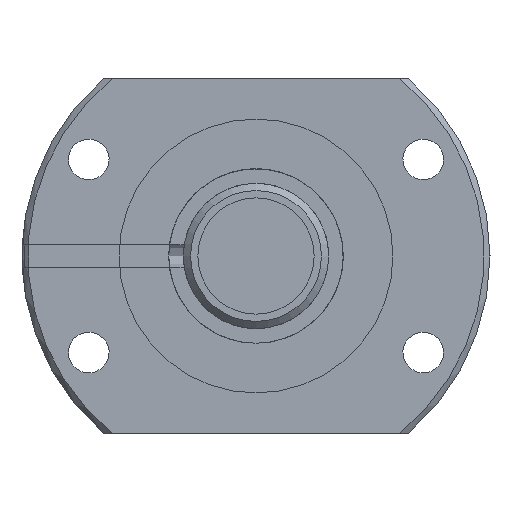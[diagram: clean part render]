
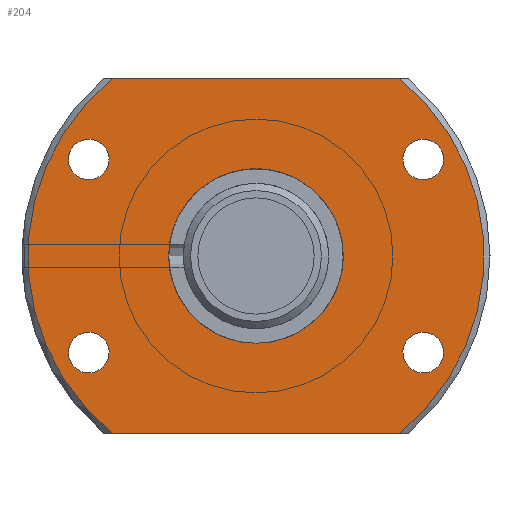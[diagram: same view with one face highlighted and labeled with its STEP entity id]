
A CAD part, left-side view. The second image highlights one B-rep face of the part: STEP entity #204.
In plain terms, the highlighted planar face has unit normal (-1, 0, 0).
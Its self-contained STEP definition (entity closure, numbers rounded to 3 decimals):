
#204 = ADVANCED_FACE( '', ( #311, #312, #313, #314, #315, #316 ), #317, .T. );
#311 = FACE_BOUND( '', #427, .T. );
#312 = FACE_OUTER_BOUND( '', #428, .T. );
#313 = FACE_BOUND( '', #429, .T. );
#314 = FACE_BOUND( '', #430, .T. );
#315 = FACE_BOUND( '', #431, .T. );
#316 = FACE_BOUND( '', #432, .T. );
#317 = PLANE( '', #433 );
#427 = EDGE_LOOP( '', ( #642 ) );
#428 = EDGE_LOOP( '', ( #643, #644, #645, #646 ) );
#429 = EDGE_LOOP( '', ( #647 ) );
#430 = EDGE_LOOP( '', ( #648 ) );
#431 = EDGE_LOOP( '', ( #649 ) );
#432 = EDGE_LOOP( '', ( #650 ) );
#433 = AXIS2_PLACEMENT_3D( '', #651, #652, #653 );
#642 = ORIENTED_EDGE( '', *, *, #718, .T. );
#643 = ORIENTED_EDGE( '', *, *, #738, .F. );
#644 = ORIENTED_EDGE( '', *, *, #703, .F. );
#645 = ORIENTED_EDGE( '', *, *, #709, .F. );
#646 = ORIENTED_EDGE( '', *, *, #739, .F. );
#647 = ORIENTED_EDGE( '', *, *, #695, .T. );
#648 = ORIENTED_EDGE( '', *, *, #697, .T. );
#649 = ORIENTED_EDGE( '', *, *, #699, .T. );
#650 = ORIENTED_EDGE( '', *, *, #701, .T. );
#651 = CARTESIAN_POINT( '', ( 0., 50.213, 0. ) );
#652 = DIRECTION( '', ( -1., 0., 0. ) );
#653 = DIRECTION( '', ( 0., 0., 1. ) );
#695 = EDGE_CURVE( '', #771, #771, #772, .T. );
#697 = EDGE_CURVE( '', #775, #775, #776, .T. );
#699 = EDGE_CURVE( '', #779, #779, #780, .T. );
#701 = EDGE_CURVE( '', #783, #783, #784, .T. );
#703 = EDGE_CURVE( '', #785, #788, #789, .T. );
#709 = EDGE_CURVE( '', #798, #785, #800, .T. );
#718 = EDGE_CURVE( '', #815, #815, #816, .T. );
#738 = EDGE_CURVE( '', #788, #849, #850, .T. );
#739 = EDGE_CURVE( '', #849, #798, #851, .T. );
#771 = VERTEX_POINT( '', #944 );
#772 = CIRCLE( '', #945, 4.5 );
#775 = VERTEX_POINT( '', #948 );
#776 = CIRCLE( '', #949, 4.5 );
#779 = VERTEX_POINT( '', #952 );
#780 = CIRCLE( '', #953, 4.5 );
#783 = VERTEX_POINT( '', #956 );
#784 = CIRCLE( '', #957, 4.5 );
#785 = VERTEX_POINT( '', #958 );
#788 = VERTEX_POINT( '', #964 );
#789 = CIRCLE( '', #965, 50.213 );
#798 = VERTEX_POINT( '', #981 );
#800 = LINE( '', #986, #987 );
#815 = VERTEX_POINT( '', #1043 );
#816 = CIRCLE( '', #1044, 19.2 );
#849 = VERTEX_POINT( '', #1116 );
#850 = LINE( '', #1117, #1118 );
#851 = CIRCLE( '', #1119, 50.213 );
#944 = CARTESIAN_POINT( '', ( 0., 36.806, -25.75 ) );
#945 = AXIS2_PLACEMENT_3D( '', #1166, #1167, #1168 );
#948 = CARTESIAN_POINT( '', ( 0., -36.806, -25.75 ) );
#949 = AXIS2_PLACEMENT_3D( '', #1172, #1173, #1174 );
#952 = CARTESIAN_POINT( '', ( 0., -36.806, 16.75 ) );
#953 = AXIS2_PLACEMENT_3D( '', #1178, #1179, #1180 );
#956 = CARTESIAN_POINT( '', ( 0., 36.806, 16.75 ) );
#957 = AXIS2_PLACEMENT_3D( '', #1184, #1185, #1186 );
#958 = CARTESIAN_POINT( '', ( 0., 31.627, -39. ) );
#964 = CARTESIAN_POINT( '', ( 0., 31.627, 39. ) );
#965 = AXIS2_PLACEMENT_3D( '', #1187, #1188, #1189 );
#981 = CARTESIAN_POINT( '', ( 0., -31.627, -39. ) );
#986 = CARTESIAN_POINT( '', ( 0., -51.6, -39. ) );
#987 = VECTOR( '', #1194, 1000. );
#1043 = CARTESIAN_POINT( '', ( 0., 0., -19.2 ) );
#1044 = AXIS2_PLACEMENT_3D( '', #1206, #1207, #1208 );
#1116 = CARTESIAN_POINT( '', ( 0., -31.627, 39. ) );
#1117 = CARTESIAN_POINT( '', ( 0., 51.6, 39. ) );
#1118 = VECTOR( '', #1250, 1000. );
#1119 = AXIS2_PLACEMENT_3D( '', #1251, #1252, #1253 );
#1166 = CARTESIAN_POINT( '', ( 0., 36.806, -21.25 ) );
#1167 = DIRECTION( '', ( 1., 0., 0. ) );
#1168 = DIRECTION( '', ( 0., 0., -1. ) );
#1172 = CARTESIAN_POINT( '', ( 0., -36.806, -21.25 ) );
#1173 = DIRECTION( '', ( 1., 0., 0. ) );
#1174 = DIRECTION( '', ( 0., 0., -1. ) );
#1178 = CARTESIAN_POINT( '', ( 0., -36.806, 21.25 ) );
#1179 = DIRECTION( '', ( 1., 0., 0. ) );
#1180 = DIRECTION( '', ( 0., 0., -1. ) );
#1184 = CARTESIAN_POINT( '', ( 0., 36.806, 21.25 ) );
#1185 = DIRECTION( '', ( 1., 0., 0. ) );
#1186 = DIRECTION( '', ( 0., 0., -1. ) );
#1187 = CARTESIAN_POINT( '', ( 0., 0., 0. ) );
#1188 = DIRECTION( '', ( 1., 0., 0. ) );
#1189 = DIRECTION( '', ( 0., 0., -1. ) );
#1194 = DIRECTION( '', ( 0., 1., 0. ) );
#1206 = CARTESIAN_POINT( '', ( 0., 0., 0. ) );
#1207 = DIRECTION( '', ( 1., 0., 0. ) );
#1208 = DIRECTION( '', ( 0., 0., -1. ) );
#1250 = DIRECTION( '', ( 0., -1., 0. ) );
#1251 = CARTESIAN_POINT( '', ( 0., 0., 0. ) );
#1252 = DIRECTION( '', ( 1., 0., 0. ) );
#1253 = DIRECTION( '', ( 0., 0., -1. ) );
